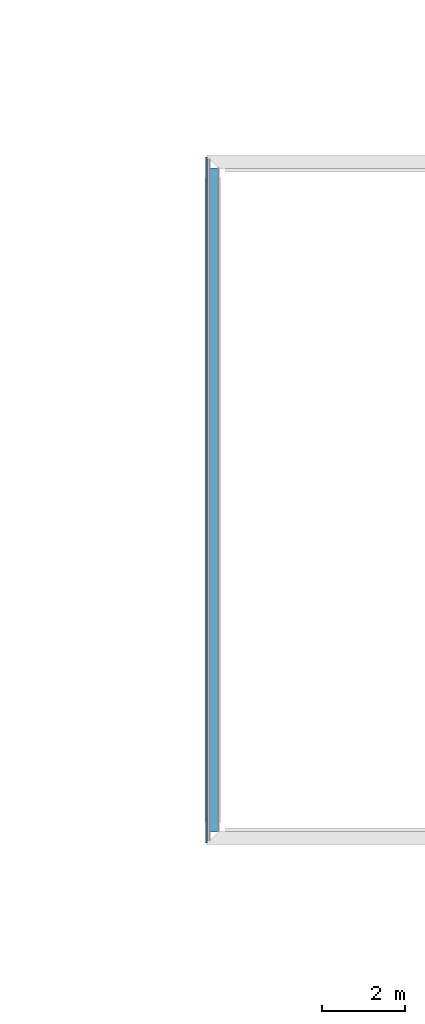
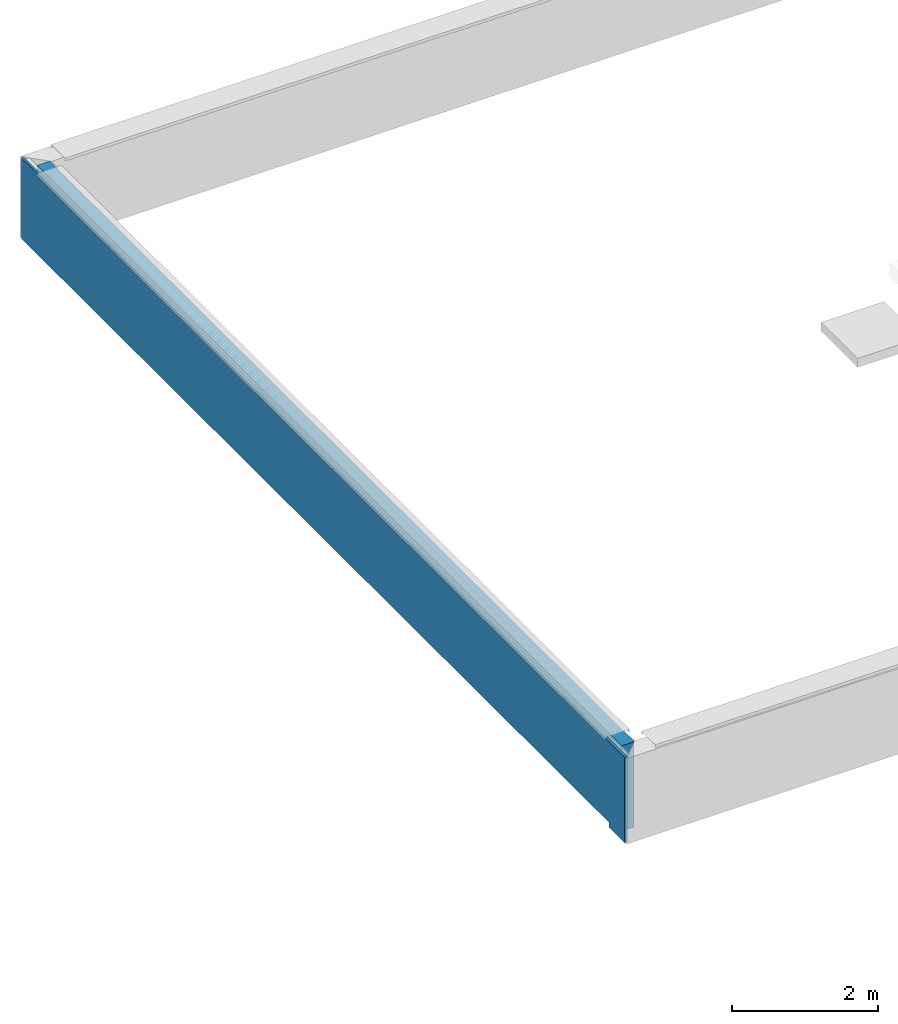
# One storey, part 4 of 8: 2 building element parts, 1 element without a shape of its own.
"""IFC2X3 building model written with IfcOpenShell, lengths in metres."""

from ifc_helpers import new_model, entity, si_unit, converted_unit, derived_unit, money_unit, direction, frame, origin_with_axes, place, context, subcontext, project, spatial, polyline, outline, extrude, boolean, faceted_brep, material, type_object, element, aggregate, save


model = new_model("IFC2X3")

# Units and contexts
model_context = context("Model", 3, precision=1e-05, world=origin_with_axes(), true_north=direction((0.0, 1.0)))
body_context = subcontext(model_context, "Body", "Model", "MODEL_VIEW")
ifc_project = project(units=[si_unit("LENGTHUNIT", "METRE"), si_unit("AREAUNIT", "SQUARE_METRE"), si_unit("VOLUMEUNIT", "CUBIC_METRE"), converted_unit("PLANEANGLEUNIT", "DEGREE", entity("IfcPlaneAngleMeasure", 0.0174532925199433), si_unit("PLANEANGLEUNIT", "RADIAN"), dimensions=[0, 0, 0, 0, 0, 0, 0]), money_unit("EUR"), converted_unit("TIMEUNIT", "Year", entity("IfcTimeMeasure", 31557600.0), si_unit("TIMEUNIT", "SECOND"), dimensions=[0, 0, 1, 0, 0, 0, 0]), si_unit("MASSUNIT", "GRAM", prefix="KILO"), si_unit("THERMODYNAMICTEMPERATUREUNIT", "DEGREE_CELSIUS"), si_unit("LUMINOUSINTENSITYUNIT", "LUMEN"), si_unit("ENERGYUNIT", "JOULE", prefix="MEGA"), derived_unit("THERMALCONDUCTANCEUNIT", [(si_unit("POWERUNIT", "WATT"), 1), (si_unit("LENGTHUNIT", "METRE"), -1), (si_unit("THERMODYNAMICTEMPERATUREUNIT", "KELVIN"), -1)]), derived_unit("SPECIFICHEATCAPACITYUNIT", [(si_unit("ENERGYUNIT", "JOULE"), 1), (si_unit("MASSUNIT", "GRAM", prefix="KILO"), -1), (si_unit("THERMODYNAMICTEMPERATUREUNIT", "KELVIN"), -1)]), derived_unit("MASSDENSITYUNIT", [(si_unit("MASSUNIT", "GRAM", prefix="KILO"), 1), (si_unit("VOLUMEUNIT", "CUBIC_METRE"), -1)])], contexts=[model_context])

# Site, building, storey
site_placement = place(None, origin_with_axes())
site = spatial("IfcSite", under=ifc_project, at=site_placement, Name="Site", CompositionType="ELEMENT")
building_placement = place(site_placement, origin_with_axes())
building = spatial("IfcBuilding", under=site, at=building_placement, Name="Bâtiment", CompositionType="ELEMENT")
storey_placement = place(building_placement, frame((0.0, 0.0, 7.12), z_axis=(0.0, 0.0, 1.0), x_axis=(1.0, 0.0, 0.0)))
storey = spatial("IfcBuildingStorey", under=building, at=storey_placement, Name="Combles", CompositionType="ELEMENT", Elevation=7.12)

# Wall, building element parts
wall_type = type_object("IfcWallType", Name="*MACONNERIE BARDAGE METAL Acrotère 318", PredefinedType="NOTDEFINED")
wall_placement = place(storey_placement, frame((24.98999999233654, -11.14756213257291, -0.334784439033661), z_axis=(0.0, 0.0, 1.0), x_axis=(0.0, -1.0, 0.0)))
wall = element("IfcWall", 1, at=wall_placement, inside=storey, type_object=wall_type, Name="Mur maçonné + ITI + véture métallique")
ifc_material_1 = material(Name="*GENERIQUE - MAÇONNERIE")
building_element_part_1_placement = place(wall_placement, origin_with_axes())
solid_1 = boolean("DIFFERENCE", boolean("DIFFERENCE", boolean("DIFFERENCE", boolean("DIFFERENCE", boolean("DIFFERENCE", boolean("DIFFERENCE", boolean("DIFFERENCE", boolean("DIFFERENCE", extrude(outline(polyline([(-0.3680000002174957, -0.2680000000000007), (16.28800002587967, -0.2680000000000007), (16.28800002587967, -0.06800000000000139), (-0.3680000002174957, -0.06800000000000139), (-0.3680000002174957, -0.2680000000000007)])), origin_with_axes(), (0.0, 0.0, 1.0), 1.434784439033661), faceted_brep([(15.97000002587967, -0.04999999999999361, 0.0), (15.97000002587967, -0.04999999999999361, 1.434784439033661), (16.28800002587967, -0.05000000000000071, 1.434784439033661), (16.28800002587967, -0.05000000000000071, 0.0), (15.97000002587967, -0.06799999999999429, 1.434784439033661), (15.97000002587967, -0.06799999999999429, 0.0), (16.28800002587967, -0.06800000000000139, 1.434784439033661), (16.28800002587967, -0.06800000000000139, 0.0)], [[[0, 1, 2, 3]], [[4, 1, 0, 5]], [[1, 4, 6, 2]], [[6, 7, 3, 2]], [[5, 0, 3, 7]], [[4, 5, 7, 6]]])), faceted_brep([(-0.04999998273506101, -0.06800000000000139, 1.434784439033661), (-0.04999998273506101, -0.05000000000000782, 1.434784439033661), (-0.3680000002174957, -0.05000000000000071, 1.434784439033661), (-0.3680000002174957, -0.06800000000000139, 1.434784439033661), (-0.04999998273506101, -0.05000000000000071, 0.08067000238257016), (-0.04999998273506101, -0.06799999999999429, 0.08067000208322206), (15.81000015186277, -0.04999999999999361, 0.08067000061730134), (15.81000015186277, -0.04999999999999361, 0.0), (-0.3680000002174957, -0.05000000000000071, 0.0), (0.0, -0.05000000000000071, 0.08067000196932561), (5.485002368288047, -0.04999999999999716, 0.08067000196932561), (5.485002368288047, -0.05000000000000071, 0.2510174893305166), (5.735002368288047, -0.05000000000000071, 0.2510174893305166), (5.735002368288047, -0.04999999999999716, 0.08067000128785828), (10.18500243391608, -0.04999999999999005, 0.08067000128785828), (10.18500243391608, -0.04999999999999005, 0.2275174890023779), (10.43500243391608, -0.04999999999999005, 0.2275174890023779), (10.43500243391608, -0.04999999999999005, 0.08067000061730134), (-0.3680000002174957, -0.06800000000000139, 0.0), (15.81000015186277, -0.06800000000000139, 0.0), (15.81000015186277, -0.06800000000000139, 0.08067000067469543), (0.0, -0.06800000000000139, 0.08067000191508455), (10.43500243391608, -0.05800630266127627, 0.08067000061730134), (10.18500243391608, -0.05800630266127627, 0.08067000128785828), (5.735002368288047, -0.05799987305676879, 0.08067000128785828), (5.485002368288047, -0.05799987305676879, 0.08067000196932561), (5.485002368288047, -0.05799987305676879, 0.2510174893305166), (5.735002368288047, -0.05799987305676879, 0.2510174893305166), (10.18500243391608, -0.05800630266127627, 0.2275174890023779), (10.43500243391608, -0.05800630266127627, 0.2275174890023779)], [[[0, 1, 2, 3]], [[4, 1, 0, 5]], [[6, 7, 8, 2, 1, 4, 9, 10, 11, 12, 13, 14, 15, 16, 17]], [[2, 8, 18, 3]], [[5, 0, 3, 18, 19, 20, 21]], [[9, 4, 5, 21]], [[7, 6, 20, 19]], [[7, 19, 18, 8]], [[10, 9, 21, 20, 6, 17, 22, 23, 14, 13, 24, 25]], [[11, 10, 25, 26]], [[12, 11, 26, 27]], [[13, 12, 27, 24]], [[15, 14, 23, 28]], [[16, 15, 28, 29]], [[17, 16, 29, 22]], [[22, 29, 28, 23]], [[24, 27, 26, 25]]])), faceted_brep([(15.98800002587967, -0.06799999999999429, 0.0), (15.98800002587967, -0.06799999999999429, 1.434784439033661), (16.28800002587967, -0.06800000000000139, 1.434784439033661), (16.28800002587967, -0.06800000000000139, 0.0), (15.98800002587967, -0.2679999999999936, 1.434784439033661), (15.98800002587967, -0.2679999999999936, 0.0), (16.28800002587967, -0.2680000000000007, 1.434784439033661), (16.28800002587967, -0.2680000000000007, 0.0)], [[[0, 1, 2, 3]], [[4, 1, 0, 5]], [[1, 4, 6, 2]], [[2, 6, 7, 3]], [[5, 0, 3, 7]], [[4, 5, 7, 6]]])), faceted_brep([(-0.06799998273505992, -0.2680000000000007, 1.434784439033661), (-0.06799998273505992, -0.06800000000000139, 1.434784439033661), (-0.3680000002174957, -0.06800000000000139, 1.434784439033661), (-0.3680000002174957, -0.2680000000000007, 1.434784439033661), (-0.06799998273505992, -0.06799999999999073, 0.08067000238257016), (-0.06799998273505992, -0.2680000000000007, 0.08067000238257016), (15.81000015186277, -0.06800000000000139, 0.08067000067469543), (15.81000015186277, -0.06800000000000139, 0.0), (-0.3680000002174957, -0.06800000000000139, 0.0), (-0.04999998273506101, -0.06799999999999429, 0.08067000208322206), (0.0, -0.06800000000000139, 0.08067000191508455), (-0.3680000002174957, -0.2680000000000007, 0.0), (15.81000015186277, -0.2680000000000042, 0.0), (15.81000015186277, -0.2680000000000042, 0.08067000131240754), (0.0, -0.2680000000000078, 0.08067000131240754)], [[[0, 1, 2, 3]], [[4, 1, 0, 5]], [[6, 7, 8, 2, 1, 4, 9, 10]], [[3, 2, 8, 11]], [[5, 0, 3, 11, 12, 13, 14]], [[9, 4, 5, 14, 10]], [[7, 6, 13, 12]], [[7, 12, 11, 8]], [[6, 10, 14, 13]]])), faceted_brep([(-0.3680000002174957, -0.2680000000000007, 1.434784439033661), (-0.3680000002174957, -0.2779999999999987, 1.434784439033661), (-0.267999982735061, -0.2780000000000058, 1.434784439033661), (-0.267999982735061, -0.2680000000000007, 1.434784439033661), (-0.3680000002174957, -0.2779999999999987, 0.0), (-0.3680000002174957, -0.2680000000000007, 0.0), (15.81000015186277, -0.2780000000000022, 0.0806700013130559), (0.0, -0.2780000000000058, 0.0806700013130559), (-0.267999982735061, -0.2779999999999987, 0.08067000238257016), (15.81000015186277, -0.2780000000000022, 0.0), (-0.267999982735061, -0.2679999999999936, 0.08067000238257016), (0.0, -0.2680000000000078, 0.0806700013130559), (15.81000015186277, -0.2680000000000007, 0.0806700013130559), (15.81000015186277, -0.2680000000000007, 0.0)], [[[0, 1, 2, 3]], [[4, 1, 0, 5]], [[6, 7, 8, 2, 1, 4, 9]], [[2, 8, 10, 3]], [[10, 11, 12, 13, 5, 0, 3]], [[4, 5, 13, 9]], [[7, 6, 12, 11]], [[8, 7, 11, 10]], [[6, 9, 13, 12]]])), faceted_brep([(16.28800002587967, -0.2680000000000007, 0.0), (16.18800002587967, -0.2679999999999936, 0.0), (16.18800002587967, -0.2679999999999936, 1.434784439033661), (16.28800002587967, -0.2680000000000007, 1.434784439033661), (16.28800002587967, -0.2779999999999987, 0.0), (16.18800002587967, -0.2779999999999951, 0.0), (16.18800002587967, -0.2779999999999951, 1.434784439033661), (16.28800002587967, -0.2779999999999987, 1.434784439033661)], [[[0, 1, 2, 3]], [[4, 5, 1, 0]], [[5, 6, 2, 1]], [[3, 2, 6, 7]], [[3, 7, 4, 0]], [[7, 6, 5, 4]]])), faceted_brep([(16.28800002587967, -0.2779999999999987, 0.0), (16.19800002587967, -0.2779999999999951, 0.0), (16.19800002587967, -0.2779999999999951, 1.434784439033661), (16.28800002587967, -0.2779999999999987, 1.434784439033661), (16.28800002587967, -0.3279999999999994, 0.0), (16.19800002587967, -0.3279999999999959, 0.0), (16.19800002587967, -0.3279999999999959, 1.434784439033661), (16.28800002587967, -0.3279999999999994, 1.434784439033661)], [[[0, 1, 2, 3]], [[4, 5, 1, 0]], [[5, 6, 2, 1]], [[3, 2, 6, 7]], [[0, 3, 7, 4]], [[7, 6, 5, 4]]])), faceted_brep([(-0.3680000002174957, -0.3279999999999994, 1.434784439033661), (-0.2779999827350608, -0.3279999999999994, 1.434784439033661), (-0.2779999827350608, -0.2779999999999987, 1.434784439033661), (-0.3680000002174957, -0.2779999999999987, 1.434784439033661), (0.0, -0.3280000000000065, 0.08067000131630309), (-0.2779999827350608, -0.3279999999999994, 0.08067000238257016), (-0.3680000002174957, -0.3279999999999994, 0.0), (15.81000015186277, -0.328000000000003, 0.0), (15.81000015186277, -0.328000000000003, 0.08067000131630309), (-0.2779999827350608, -0.2779999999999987, 0.08067000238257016), (0.0, -0.2780000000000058, 0.08067000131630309), (15.81000015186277, -0.2780000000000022, 0.08067000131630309), (15.81000015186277, -0.2780000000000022, 0.0), (-0.3680000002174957, -0.2779999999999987, 0.0)], [[[0, 1, 2, 3]], [[4, 5, 1, 0, 6, 7, 8]], [[5, 9, 2, 1]], [[10, 11, 12, 13, 3, 2, 9]], [[6, 0, 3, 13]], [[4, 10, 9, 5]], [[13, 12, 7, 6]], [[7, 12, 11, 8]], [[8, 11, 10, 4]]]))
building_element_part_1 = element("IfcBuildingElementPart", 2, at=building_element_part_1_placement, material=ifc_material_1, Name="*GENERIQUE - MAÇONNERIE", context=body_context, shape_type="CSG", body=[
    boolean("DIFFERENCE", boolean("DIFFERENCE", solid_1, faceted_brep([(16.24800002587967, -0.3279999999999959, 0.0), (16.24800002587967, -0.3279999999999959, 1.434784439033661), (16.28800002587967, -0.3279999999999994, 1.434784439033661), (16.28800002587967, -0.3279999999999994, 0.0), (16.24800002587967, -0.367999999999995, 1.434784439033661), (16.24800002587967, -0.367999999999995, 0.0), (16.28800002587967, -0.3679999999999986, 1.434784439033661), (16.28800002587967, -0.3679999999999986, 0.0)], [[[0, 1, 2, 3]], [[4, 1, 0, 5]], [[1, 4, 6, 2]], [[2, 6, 7, 3]], [[5, 0, 3, 7]], [[4, 5, 7, 6]]])), faceted_brep([(-0.3279999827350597, -0.3679999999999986, 1.434784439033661), (-0.3279999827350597, -0.3279999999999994, 1.434784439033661), (-0.3680000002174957, -0.3279999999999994, 1.434784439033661), (-0.3680000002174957, -0.3679999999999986, 1.434784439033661), (-0.3279999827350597, -0.3279999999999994, 0.08067000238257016), (-0.3279999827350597, -0.3679999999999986, 0.08067000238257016), (15.81000015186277, -0.328000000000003, 0.0806700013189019), (15.81000015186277, -0.328000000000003, 0.0), (-0.3680000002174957, -0.3279999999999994, 0.0), (0.0, -0.3280000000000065, 0.0806700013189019), (-0.3680000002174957, -0.3679999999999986, 0.0), (15.81000015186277, -0.3680000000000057, 0.0), (15.81000015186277, -0.3680000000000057, 0.0806700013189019), (0.0, -0.3680000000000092, 0.0806700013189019)], [[[0, 1, 2, 3]], [[4, 1, 0, 5]], [[6, 7, 8, 2, 1, 4, 9]], [[3, 2, 8, 10]], [[5, 0, 3, 10, 11, 12, 13]], [[9, 4, 5, 13]], [[7, 6, 12, 11]], [[7, 11, 10, 8]], [[6, 9, 13, 12]]])),
])
ifc_material_2 = material(Name="*MÉTAL- BARDAGE")
building_element_part_2_placement = place(wall_placement, origin_with_axes())
solid_2 = boolean("DIFFERENCE", boolean("DIFFERENCE", boolean("DIFFERENCE", boolean("DIFFERENCE", boolean("DIFFERENCE", boolean("DIFFERENCE", boolean("DIFFERENCE", boolean("DIFFERENCE", extrude(outline(polyline([(-0.3680000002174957, -0.3679999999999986), (16.28800002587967, -0.3679999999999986), (16.28800002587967, -0.3279999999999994), (-0.3680000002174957, -0.3279999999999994), (-0.3680000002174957, -0.3679999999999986)])), origin_with_axes(), (0.0, 0.0, 1.0), 1.434784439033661), faceted_brep([(15.97000002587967, -0.04999999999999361, 0.0), (15.97000002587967, -0.04999999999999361, 1.434784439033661), (16.28800002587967, -0.05000000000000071, 1.434784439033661), (16.28800002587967, -0.05000000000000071, 0.0), (15.97000002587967, -0.06799999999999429, 1.434784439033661), (15.97000002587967, -0.06799999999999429, 0.0), (16.28800002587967, -0.06800000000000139, 1.434784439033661), (16.28800002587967, -0.06800000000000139, 0.0)], [[[0, 1, 2, 3]], [[4, 1, 0, 5]], [[1, 4, 6, 2]], [[6, 7, 3, 2]], [[5, 0, 3, 7]], [[4, 5, 7, 6]]])), faceted_brep([(-0.04999998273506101, -0.06800000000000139, 1.434784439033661), (-0.04999998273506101, -0.05000000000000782, 1.434784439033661), (-0.3680000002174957, -0.05000000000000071, 1.434784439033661), (-0.3680000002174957, -0.06800000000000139, 1.434784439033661), (-0.04999998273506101, -0.05000000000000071, 0.08067000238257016), (-0.04999998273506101, -0.06799999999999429, 0.08067000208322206), (15.81000015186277, -0.04999999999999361, 0.08067000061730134), (15.81000015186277, -0.04999999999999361, 0.0), (-0.3680000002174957, -0.05000000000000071, 0.0), (0.0, -0.05000000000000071, 0.08067000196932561), (5.485002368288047, -0.04999999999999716, 0.08067000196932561), (5.485002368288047, -0.05000000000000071, 0.2510174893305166), (5.735002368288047, -0.05000000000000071, 0.2510174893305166), (5.735002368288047, -0.04999999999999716, 0.08067000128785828), (10.18500243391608, -0.04999999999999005, 0.08067000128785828), (10.18500243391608, -0.04999999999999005, 0.2275174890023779), (10.43500243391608, -0.04999999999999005, 0.2275174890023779), (10.43500243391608, -0.04999999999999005, 0.08067000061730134), (-0.3680000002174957, -0.06800000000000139, 0.0), (15.81000015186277, -0.06800000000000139, 0.0), (15.81000015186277, -0.06800000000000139, 0.08067000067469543), (0.0, -0.06800000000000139, 0.08067000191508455), (10.43500243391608, -0.05800630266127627, 0.08067000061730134), (10.18500243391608, -0.05800630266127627, 0.08067000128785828), (5.735002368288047, -0.05799987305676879, 0.08067000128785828), (5.485002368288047, -0.05799987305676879, 0.08067000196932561), (5.485002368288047, -0.05799987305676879, 0.2510174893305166), (5.735002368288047, -0.05799987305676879, 0.2510174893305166), (10.18500243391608, -0.05800630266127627, 0.2275174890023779), (10.43500243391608, -0.05800630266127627, 0.2275174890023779)], [[[0, 1, 2, 3]], [[4, 1, 0, 5]], [[6, 7, 8, 2, 1, 4, 9, 10, 11, 12, 13, 14, 15, 16, 17]], [[2, 8, 18, 3]], [[5, 0, 3, 18, 19, 20, 21]], [[9, 4, 5, 21]], [[7, 6, 20, 19]], [[7, 19, 18, 8]], [[10, 9, 21, 20, 6, 17, 22, 23, 14, 13, 24, 25]], [[11, 10, 25, 26]], [[12, 11, 26, 27]], [[13, 12, 27, 24]], [[15, 14, 23, 28]], [[16, 15, 28, 29]], [[17, 16, 29, 22]], [[22, 29, 28, 23]], [[24, 27, 26, 25]]])), faceted_brep([(15.98800002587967, -0.06799999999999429, 0.0), (15.98800002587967, -0.06799999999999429, 1.434784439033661), (16.28800002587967, -0.06800000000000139, 1.434784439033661), (16.28800002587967, -0.06800000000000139, 0.0), (15.98800002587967, -0.2679999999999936, 1.434784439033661), (15.98800002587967, -0.2679999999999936, 0.0), (16.28800002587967, -0.2680000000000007, 1.434784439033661), (16.28800002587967, -0.2680000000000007, 0.0)], [[[0, 1, 2, 3]], [[4, 1, 0, 5]], [[1, 4, 6, 2]], [[2, 6, 7, 3]], [[5, 0, 3, 7]], [[4, 5, 7, 6]]])), faceted_brep([(-0.06799998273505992, -0.2680000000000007, 1.434784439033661), (-0.06799998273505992, -0.06800000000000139, 1.434784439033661), (-0.3680000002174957, -0.06800000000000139, 1.434784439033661), (-0.3680000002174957, -0.2680000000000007, 1.434784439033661), (-0.06799998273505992, -0.06799999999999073, 0.08067000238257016), (-0.06799998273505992, -0.2680000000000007, 0.08067000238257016), (15.81000015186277, -0.06800000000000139, 0.08067000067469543), (15.81000015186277, -0.06800000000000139, 0.0), (-0.3680000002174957, -0.06800000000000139, 0.0), (-0.04999998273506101, -0.06799999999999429, 0.08067000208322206), (0.0, -0.06800000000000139, 0.08067000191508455), (-0.3680000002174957, -0.2680000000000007, 0.0), (15.81000015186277, -0.2680000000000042, 0.0), (15.81000015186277, -0.2680000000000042, 0.08067000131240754), (0.0, -0.2680000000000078, 0.08067000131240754)], [[[0, 1, 2, 3]], [[4, 1, 0, 5]], [[6, 7, 8, 2, 1, 4, 9, 10]], [[3, 2, 8, 11]], [[5, 0, 3, 11, 12, 13, 14]], [[9, 4, 5, 14, 10]], [[7, 6, 13, 12]], [[7, 12, 11, 8]], [[6, 10, 14, 13]]])), faceted_brep([(-0.3680000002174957, -0.2680000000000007, 1.434784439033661), (-0.3680000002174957, -0.2779999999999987, 1.434784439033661), (-0.267999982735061, -0.2780000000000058, 1.434784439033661), (-0.267999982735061, -0.2680000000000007, 1.434784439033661), (-0.3680000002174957, -0.2779999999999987, 0.0), (-0.3680000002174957, -0.2680000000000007, 0.0), (15.81000015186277, -0.2780000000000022, 0.0806700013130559), (0.0, -0.2780000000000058, 0.0806700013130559), (-0.267999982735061, -0.2779999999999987, 0.08067000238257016), (15.81000015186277, -0.2780000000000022, 0.0), (-0.267999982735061, -0.2679999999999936, 0.08067000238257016), (0.0, -0.2680000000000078, 0.0806700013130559), (15.81000015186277, -0.2680000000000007, 0.0806700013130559), (15.81000015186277, -0.2680000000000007, 0.0)], [[[0, 1, 2, 3]], [[4, 1, 0, 5]], [[6, 7, 8, 2, 1, 4, 9]], [[2, 8, 10, 3]], [[10, 11, 12, 13, 5, 0, 3]], [[4, 5, 13, 9]], [[7, 6, 12, 11]], [[8, 7, 11, 10]], [[6, 9, 13, 12]]])), faceted_brep([(16.28800002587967, -0.2680000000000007, 0.0), (16.18800002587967, -0.2679999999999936, 0.0), (16.18800002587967, -0.2679999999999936, 1.434784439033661), (16.28800002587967, -0.2680000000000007, 1.434784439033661), (16.28800002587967, -0.2779999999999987, 0.0), (16.18800002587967, -0.2779999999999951, 0.0), (16.18800002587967, -0.2779999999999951, 1.434784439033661), (16.28800002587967, -0.2779999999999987, 1.434784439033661)], [[[0, 1, 2, 3]], [[4, 5, 1, 0]], [[5, 6, 2, 1]], [[3, 2, 6, 7]], [[3, 7, 4, 0]], [[7, 6, 5, 4]]])), faceted_brep([(16.28800002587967, -0.2779999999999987, 0.0), (16.19800002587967, -0.2779999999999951, 0.0), (16.19800002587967, -0.2779999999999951, 1.434784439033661), (16.28800002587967, -0.2779999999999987, 1.434784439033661), (16.28800002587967, -0.3279999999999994, 0.0), (16.19800002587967, -0.3279999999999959, 0.0), (16.19800002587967, -0.3279999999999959, 1.434784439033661), (16.28800002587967, -0.3279999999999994, 1.434784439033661)], [[[0, 1, 2, 3]], [[4, 5, 1, 0]], [[5, 6, 2, 1]], [[3, 2, 6, 7]], [[0, 3, 7, 4]], [[7, 6, 5, 4]]])), faceted_brep([(-0.3680000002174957, -0.3279999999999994, 1.434784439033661), (-0.2779999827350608, -0.3279999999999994, 1.434784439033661), (-0.2779999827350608, -0.2779999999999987, 1.434784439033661), (-0.3680000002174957, -0.2779999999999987, 1.434784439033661), (0.0, -0.3280000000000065, 0.08067000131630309), (-0.2779999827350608, -0.3279999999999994, 0.08067000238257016), (-0.3680000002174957, -0.3279999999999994, 0.0), (15.81000015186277, -0.328000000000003, 0.0), (15.81000015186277, -0.328000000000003, 0.08067000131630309), (-0.2779999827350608, -0.2779999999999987, 0.08067000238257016), (0.0, -0.2780000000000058, 0.08067000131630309), (15.81000015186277, -0.2780000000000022, 0.08067000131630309), (15.81000015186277, -0.2780000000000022, 0.0), (-0.3680000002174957, -0.2779999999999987, 0.0)], [[[0, 1, 2, 3]], [[4, 5, 1, 0, 6, 7, 8]], [[5, 9, 2, 1]], [[10, 11, 12, 13, 3, 2, 9]], [[6, 0, 3, 13]], [[4, 10, 9, 5]], [[13, 12, 7, 6]], [[7, 12, 11, 8]], [[8, 11, 10, 4]]]))
building_element_part_2 = element("IfcBuildingElementPart", 3, at=building_element_part_2_placement, material=ifc_material_2, Name="*MÉTAL- BARDAGE", context=body_context, shape_type="CSG", body=[
    boolean("DIFFERENCE", boolean("DIFFERENCE", solid_2, faceted_brep([(16.24800002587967, -0.3279999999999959, 0.0), (16.24800002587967, -0.3279999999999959, 1.434784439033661), (16.28800002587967, -0.3279999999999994, 1.434784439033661), (16.28800002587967, -0.3279999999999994, 0.0), (16.24800002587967, -0.367999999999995, 1.434784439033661), (16.24800002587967, -0.367999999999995, 0.0), (16.28800002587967, -0.3679999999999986, 1.434784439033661), (16.28800002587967, -0.3679999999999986, 0.0)], [[[0, 1, 2, 3]], [[4, 1, 0, 5]], [[1, 4, 6, 2]], [[2, 6, 7, 3]], [[5, 0, 3, 7]], [[4, 5, 7, 6]]])), faceted_brep([(-0.3279999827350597, -0.3679999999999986, 1.434784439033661), (-0.3279999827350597, -0.3279999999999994, 1.434784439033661), (-0.3680000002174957, -0.3279999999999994, 1.434784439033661), (-0.3680000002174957, -0.3679999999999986, 1.434784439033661), (-0.3279999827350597, -0.3279999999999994, 0.08067000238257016), (-0.3279999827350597, -0.3679999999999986, 0.08067000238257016), (15.81000015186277, -0.328000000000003, 0.0806700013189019), (15.81000015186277, -0.328000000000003, 0.0), (-0.3680000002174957, -0.3279999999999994, 0.0), (0.0, -0.3280000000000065, 0.0806700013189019), (-0.3680000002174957, -0.3679999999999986, 0.0), (15.81000015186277, -0.3680000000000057, 0.0), (15.81000015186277, -0.3680000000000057, 0.0806700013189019), (0.0, -0.3680000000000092, 0.0806700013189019)], [[[0, 1, 2, 3]], [[4, 1, 0, 5]], [[6, 7, 8, 2, 1, 4, 9]], [[3, 2, 8, 10]], [[5, 0, 3, 10, 11, 12, 13]], [[9, 4, 5, 13]], [[7, 6, 12, 11]], [[7, 11, 10, 8]], [[6, 9, 13, 12]]])),
])
aggregate(wall, [building_element_part_1, building_element_part_2])

save(model, "model.ifc")
